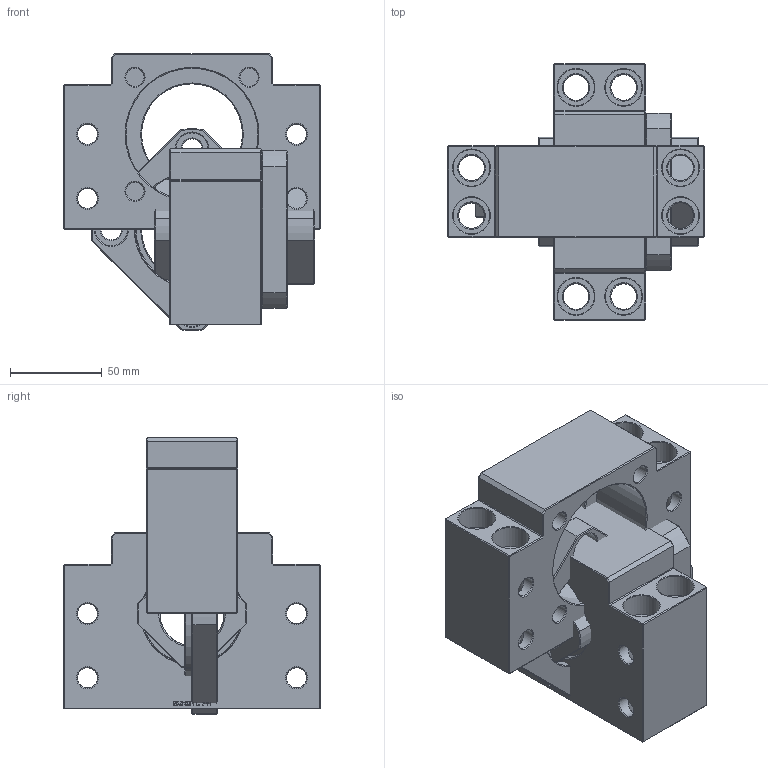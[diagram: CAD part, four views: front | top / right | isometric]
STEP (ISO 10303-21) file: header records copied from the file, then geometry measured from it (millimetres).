
FILE_DESCRIPTION( ( 'Unknown' ), '1' );
FILE_NAME( 'D:/3D/憮んお嶸棉/20060119/SBK TYPE/SBK35/SBK35.stp', 'Unknown', ( 'Unknown' ), ( 'Unknown' ), 'XStep 1.0', 'Unknown', ' ' );
FILE_SCHEMA( ( 'CONFIG_CONTROL_DESIGN' ) );
Length unit declared in the file: millimetre
Products named in the file (10): Assem1; SBK35(collar); SBK35(seal); SBK35(bearing); SBK35(housing); SBK35(holdinglid); SBK35(locknut)
Bounding box: 140 x 140 x 150.96 mm (x, y, z)
Volume: 1176024.4 mm3; surface area: 276719.6 mm2
Topology: 18 solids, 18 shells, 1450 faces, 3800 edges, 2472 vertices
Faces by surface type: plane 704, cylinder 574, cone 168, torus 2, bspline 2
Full cylindrical faces by diameter (mm): 8 x2, 10 x8, 11 x32, 14 x8, 17.5 x8, 20 x8, 35 x10, 45 x8, 55 x8, 62 x2, 72 x8
Entity records: 23411 total; most frequent: CARTESIAN_POINT 5294, DIRECTION 3789, ORIENTED_EDGE 3460, EDGE_CURVE 1730, AXIS2_PLACEMENT_3D 1376, VERTEX_POINT 1187, LINE 1037, VECTOR 1037
